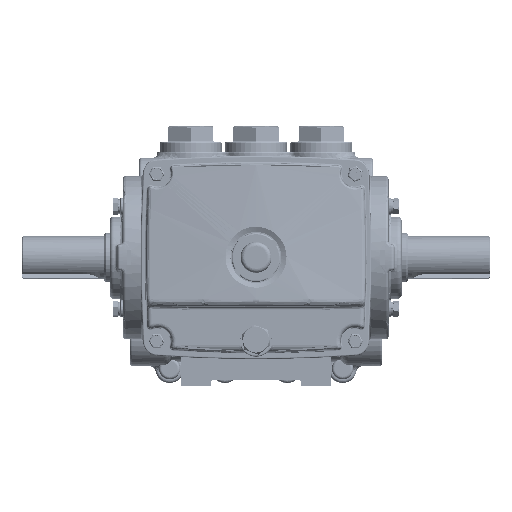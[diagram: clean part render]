
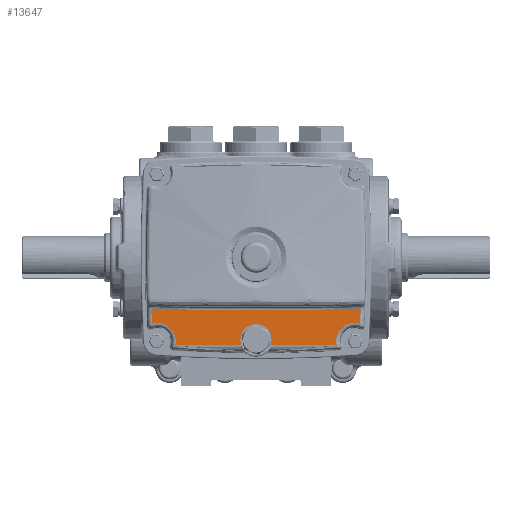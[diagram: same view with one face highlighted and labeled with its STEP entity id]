
A CAD part, top view. The second image highlights one B-rep face of the part: STEP entity #13647.
In plain terms, the highlighted planar face has unit normal (0, 0, 1).
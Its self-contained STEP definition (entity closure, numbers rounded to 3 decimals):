
#317 = VECTOR ( 'NONE', #125344, 1000. ) ;
#1548 = EDGE_CURVE ( 'NONE', #167959, #172454, #219453, .T. ) ;
#6260 = CARTESIAN_POINT ( 'NONE',  ( -73.846, -0.043, 265. ) ) ;
#7829 = DIRECTION ( 'NONE',  ( 0., 0., 1. ) ) ;
#9282 = ORIENTED_EDGE ( 'NONE', *, *, #112194, .T. ) ;
#9370 = DIRECTION ( 'NONE',  ( -1., 0., 0. ) ) ;
#11979 = EDGE_CURVE ( 'NONE', #208927, #38287, #161106, .T. ) ;
#13647 = ADVANCED_FACE ( 'NONE', ( #210175 ), #166934, .T. ) ;
#18746 = CARTESIAN_POINT ( 'NONE',  ( 69.333, -0.361, 265. ) ) ;
#19894 = CARTESIAN_POINT ( 'NONE',  ( 69.579, -23.177, 265. ) ) ;
#20274 = CARTESIAN_POINT ( 'NONE',  ( -71.591, -0.223, 265. ) ) ;
#24317 = AXIS2_PLACEMENT_3D ( 'NONE', #54348, #31862, #9370 ) ;
#25207 = AXIS2_PLACEMENT_3D ( 'NONE', #101936, #79468, #56872 ) ;
#25366 = CARTESIAN_POINT ( 'NONE',  ( -918.651, 36., 265. ) ) ;
#26689 = CARTESIAN_POINT ( 'NONE',  ( 56.811, -25.625, 265. ) ) ;
#26870 = EDGE_CURVE ( 'NONE', #174179, #133011, #193873, .T. ) ;
#30309 = CARTESIAN_POINT ( 'NONE',  ( 0., -22., 265. ) ) ;
#31862 = DIRECTION ( 'NONE',  ( 0., 0., 1. ) ) ;
#35457 = VERTEX_POINT ( 'NONE', #67800 ) ;
#36629 = ORIENTED_EDGE ( 'NONE', *, *, #57017, .T. ) ;
#37437 = CARTESIAN_POINT ( 'NONE',  ( -73.399, -10.751, 265. ) ) ;
#38287 = VERTEX_POINT ( 'NONE', #80686 ) ;
#39541 = ORIENTED_EDGE ( 'NONE', *, *, #1548, .T. ) ;
#40360 = VERTEX_POINT ( 'NONE', #6260 ) ;
#41148 = CARTESIAN_POINT ( 'NONE',  ( 71.591, -0.223, 265. ) ) ;
#42651 = CARTESIAN_POINT ( 'NONE',  ( -69.333, -0.361, 265. ) ) ;
#44603 = CARTESIAN_POINT ( 'NONE',  ( -56.811, -25.625, 265. ) ) ;
#45966 = DIRECTION ( 'NONE',  ( -1., 0., 0. ) ) ;
#50191 = B_SPLINE_CURVE_WITH_KNOTS ( 'NONE', 3,
 ( #197326, #129784, #107291, #87771, #65211, #42651, #20274, #217671 ),
 .UNSPECIFIED., .F., .F.,
 ( 4, 2, 2, 4 ),
 ( 0., 0.014, 0.02, 0.027 ),
 .UNSPECIFIED. ) ;
#53196 = EDGE_CURVE ( 'NONE', #40360, #183498, #141548, .T. ) ;
#54348 = CARTESIAN_POINT ( 'NONE',  ( 0., 1.125, 265. ) ) ;
#54890 = VECTOR ( 'NONE', #80562, 1000. ) ;
#56872 = DIRECTION ( 'NONE',  ( -1., 0., 0. ) ) ;
#57017 = EDGE_CURVE ( 'NONE', #133011, #40360, #50191, .T. ) ;
#57570 = CARTESIAN_POINT ( 'NONE',  ( 0., -0.875, 265. ) ) ;
#58246 = DIRECTION ( 'NONE',  ( -1., 0., 0. ) ) ;
#63381 = DIRECTION ( 'NONE',  ( -1., 0., 0. ) ) ;
#65211 = CARTESIAN_POINT ( 'NONE',  ( -64.814, -0.579, 265. ) ) ;
#67800 = CARTESIAN_POINT ( 'NONE',  ( -10.385, -25.625, 265. ) ) ;
#68617 = DIRECTION ( 'NONE',  ( 0., 0., 1. ) ) ;
#71730 = CIRCLE ( 'NONE', #134150, 11. ) ;
#73901 = CARTESIAN_POINT ( 'NONE',  ( 918.651, 36., 265. ) ) ;
#75364 = ORIENTED_EDGE ( 'NONE', *, *, #197752, .F. ) ;
#79163 = AXIS2_PLACEMENT_3D ( 'NONE', #73901, #68617, #45966 ) ;
#79468 = DIRECTION ( 'NONE',  ( 0., 0., -1. ) ) ;
#80043 = CARTESIAN_POINT ( 'NONE',  ( 73.846, -0.043, 265. ) ) ;
#80562 = DIRECTION ( 'NONE',  ( 1., 0., 0. ) ) ;
#80686 = CARTESIAN_POINT ( 'NONE',  ( 56.579, -23.177, 265. ) ) ;
#80833 = DIRECTION ( 'NONE',  ( 0., 0., 1. ) ) ;
#81637 = EDGE_CURVE ( 'NONE', #116502, #194694, #118151, .T. ) ;
#85448 = DIRECTION ( 'NONE',  ( -1., 0., 0. ) ) ;
#85966 = CARTESIAN_POINT ( 'NONE',  ( 0., -25.625, 265. ) ) ;
#85995 = VERTEX_POINT ( 'NONE', #44603 ) ;
#86272 = CARTESIAN_POINT ( 'NONE',  ( 73.846, -0.043, 265. ) ) ;
#87771 = CARTESIAN_POINT ( 'NONE',  ( -62.554, -0.659, 265. ) ) ;
#88298 = EDGE_LOOP ( 'NONE', ( #205830, #75364, #187635, #168507, #9282, #39541, #136748, #166874, #36629, #202261, #212580, #118051, #123387 ) ) ;
#92464 = VECTOR ( 'NONE', #126329, 1000. ) ;
#95387 = CIRCLE ( 'NONE', #25207, 13. ) ;
#97055 = CARTESIAN_POINT ( 'NONE',  ( 73.399, -10.751, 265. ) ) ;
#97289 = EDGE_CURVE ( 'NONE', #172454, #174179, #170364, .T. ) ;
#101936 = CARTESIAN_POINT ( 'NONE',  ( -69.579, -23.177, 265. ) ) ;
#103044 = CARTESIAN_POINT ( 'NONE',  ( 0., -25.625, 265. ) ) ;
#107291 = CARTESIAN_POINT ( 'NONE',  ( -55.773, -0.837, 265. ) ) ;
#107821 = CARTESIAN_POINT ( 'NONE',  ( -1.85, -11.157, 265. ) ) ;
#107960 = DIRECTION ( 'NONE',  ( 0., 0., -1. ) ) ;
#108465 = LINE ( 'NONE', #85966, #181768 ) ;
#110849 = EDGE_CURVE ( 'NONE', #183498, #85995, #95387, .T. ) ;
#112194 = EDGE_CURVE ( 'NONE', #125785, #167959, #114306, .T. ) ;
#114306 = CIRCLE ( 'NONE', #181456, 993.151 ) ;
#116502 = VERTEX_POINT ( 'NONE', #140734 ) ;
#118051 = ORIENTED_EDGE ( 'NONE', *, *, #202084, .T. ) ;
#118151 = CIRCLE ( 'NONE', #125671, 11. ) ;
#123387 = ORIENTED_EDGE ( 'NONE', *, *, #212409, .F. ) ;
#123733 = AXIS2_PLACEMENT_3D ( 'NONE', #19894, #217292, #194678 ) ;
#125344 = DIRECTION ( 'NONE',  ( -1., 0., 0. ) ) ;
#125595 = LINE ( 'NONE', #103044, #54890 ) ;
#125671 = AXIS2_PLACEMENT_3D ( 'NONE', #125856, #80833, #58246 ) ;
#125785 = VERTEX_POINT ( 'NONE', #97055 ) ;
#125856 = CARTESIAN_POINT ( 'NONE',  ( 0., -22., 265. ) ) ;
#125976 = CARTESIAN_POINT ( 'NONE',  ( 46.727, -0.875, 265. ) ) ;
#126329 = DIRECTION ( 'NONE',  ( -1., 0., 0. ) ) ;
#129784 = CARTESIAN_POINT ( 'NONE',  ( -51.25, -0.875, 265. ) ) ;
#132608 = DIRECTION ( 'NONE',  ( -1., 0., 0. ) ) ;
#133011 = VERTEX_POINT ( 'NONE', #217228 ) ;
#134150 = AXIS2_PLACEMENT_3D ( 'NONE', #30309, #7829, #205201 ) ;
#135543 = CARTESIAN_POINT ( 'NONE',  ( 46.727, -0.875, 265. ) ) ;
#136748 = ORIENTED_EDGE ( 'NONE', *, *, #97289, .T. ) ;
#140734 = CARTESIAN_POINT ( 'NONE',  ( 10.385, -25.625, 265. ) ) ;
#141548 = CIRCLE ( 'NONE', #79163, 993.151 ) ;
#147876 = CARTESIAN_POINT ( 'NONE',  ( 0., -0.875, 265. ) ) ;
#148504 = CARTESIAN_POINT ( 'NONE',  ( 51.25, -0.875, 265. ) ) ;
#148856 = CARTESIAN_POINT ( 'NONE',  ( -64.341, -0.875, 265. ) ) ;
#150481 = EDGE_CURVE ( 'NONE', #38287, #125785, #216550, .T. ) ;
#155109 = DIRECTION ( 'NONE',  ( 0., 0., 1. ) ) ;
#161106 = CIRCLE ( 'NONE', #216984, 13. ) ;
#166874 = ORIENTED_EDGE ( 'NONE', *, *, #26870, .T. ) ;
#166934 = PLANE ( 'NONE',  #24317 ) ;
#167959 = VERTEX_POINT ( 'NONE', #80043 ) ;
#168507 = ORIENTED_EDGE ( 'NONE', *, *, #150481, .T. ) ;
#170364 = LINE ( 'NONE', #147876, #317 ) ;
#171001 = CARTESIAN_POINT ( 'NONE',  ( 55.773, -0.837, 265. ) ) ;
#172454 = VERTEX_POINT ( 'NONE', #135543 ) ;
#174179 = VERTEX_POINT ( 'NONE', #57570 ) ;
#181456 = AXIS2_PLACEMENT_3D ( 'NONE', #25366, #155109, #132608 ) ;
#181768 = VECTOR ( 'NONE', #63381, 1000. ) ;
#183498 = VERTEX_POINT ( 'NONE', #37437 ) ;
#187635 = ORIENTED_EDGE ( 'NONE', *, *, #11979, .T. ) ;
#193548 = CARTESIAN_POINT ( 'NONE',  ( 62.554, -0.659, 265. ) ) ;
#193873 = LINE ( 'NONE', #148856, #92464 ) ;
#194678 = DIRECTION ( 'NONE',  ( -1., 0., 0. ) ) ;
#194694 = VERTEX_POINT ( 'NONE', #107821 ) ;
#197326 = CARTESIAN_POINT ( 'NONE',  ( -46.727, -0.875, 265. ) ) ;
#197752 = EDGE_CURVE ( 'NONE', #208927, #116502, #108465, .T. ) ;
#197990 = CARTESIAN_POINT ( 'NONE',  ( 69.579, -23.177, 265. ) ) ;
#202084 = EDGE_CURVE ( 'NONE', #85995, #35457, #125595, .T. ) ;
#202261 = ORIENTED_EDGE ( 'NONE', *, *, #53196, .T. ) ;
#205201 = DIRECTION ( 'NONE',  ( -1., 0., 0. ) ) ;
#205830 = ORIENTED_EDGE ( 'NONE', *, *, #81637, .F. ) ;
#208927 = VERTEX_POINT ( 'NONE', #26689 ) ;
#210175 = FACE_OUTER_BOUND ( 'NONE', #88298, .T. ) ;
#212409 = EDGE_CURVE ( 'NONE', #194694, #35457, #71730, .T. ) ;
#212580 = ORIENTED_EDGE ( 'NONE', *, *, #110849, .T. ) ;
#216131 = CARTESIAN_POINT ( 'NONE',  ( 64.814, -0.579, 265. ) ) ;
#216550 = CIRCLE ( 'NONE', #123733, 13. ) ;
#216984 = AXIS2_PLACEMENT_3D ( 'NONE', #197990, #107960, #85448 ) ;
#217228 = CARTESIAN_POINT ( 'NONE',  ( -46.727, -0.875, 265. ) ) ;
#217292 = DIRECTION ( 'NONE',  ( 0., 0., -1. ) ) ;
#217671 = CARTESIAN_POINT ( 'NONE',  ( -73.846, -0.043, 265. ) ) ;
#219453 = B_SPLINE_CURVE_WITH_KNOTS ( 'NONE', 3,
 ( #86272, #41148, #18746, #216131, #193548, #171001, #148504, #125976 ),
 .UNSPECIFIED., .F., .F.,
 ( 4, 2, 2, 4 ),
 ( 0.003, 0.01, 0.017, 0.03 ),
 .UNSPECIFIED. ) ;
